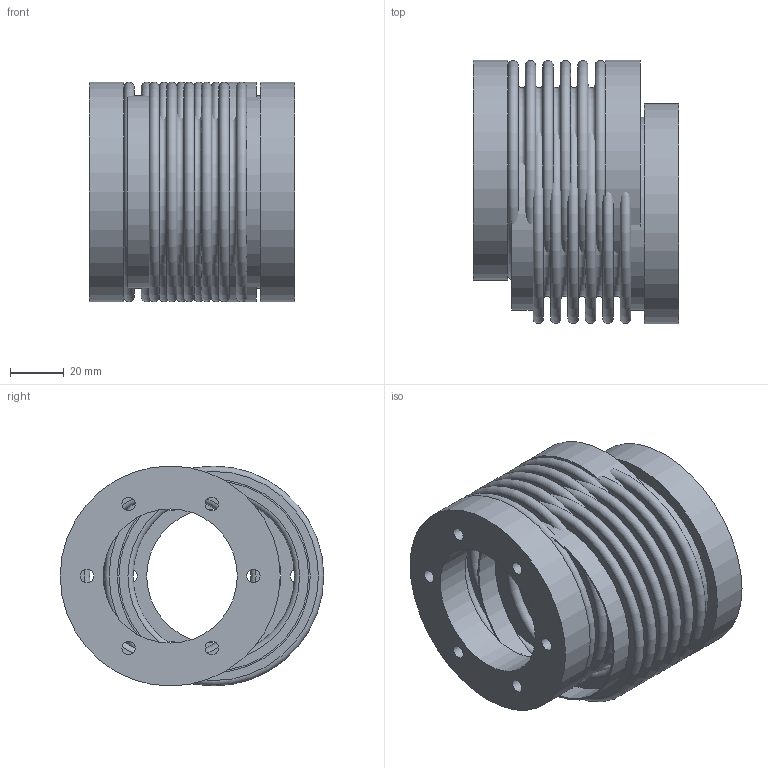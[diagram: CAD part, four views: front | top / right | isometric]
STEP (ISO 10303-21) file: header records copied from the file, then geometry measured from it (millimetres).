
FILE_DESCRIPTION( ( 'Unknown' ), '1' );
FILE_NAME( 'C:/Dokumente und Einstellungen/Sven/Desktop/homepage/cad - homepage/KB7/KB7-150-62.stp', 'Unknown', ( 'Unknown' ), ( 'Unknown' ), 'XStep 1.0', 'Unknown', ' ' );
FILE_SCHEMA( ( 'automotive_design' ) );
Length unit declared in the file: millimetre
Products named in the file (3): Assem1; BL80-150_Standard; FN80-150_Standard_0
Bounding box: 76.79 x 98.24 x 82 mm (x, y, z)
Volume: 165078 mm3; surface area: 173880.3 mm2
Topology: 5 solids, 5 shells, 134 faces, 228 edges, 152 vertices
Faces by surface type: plane 58, torus 44, cylinder 32
Full cylindrical faces by diameter (mm): 5 x18, 50 x3, 70.7 x4, 71.9 x4, 82 x3
Entity records: 1810 total; most frequent: DIRECTION 268, CARTESIAN_POINT 202, EDGE_LOOP 136, ORIENTED_EDGE 136, AXIS2_PLACEMENT_3D 134, FACE_OUTER_BOUND 96, EDGE_CURVE 68, VERTEX_POINT 68
